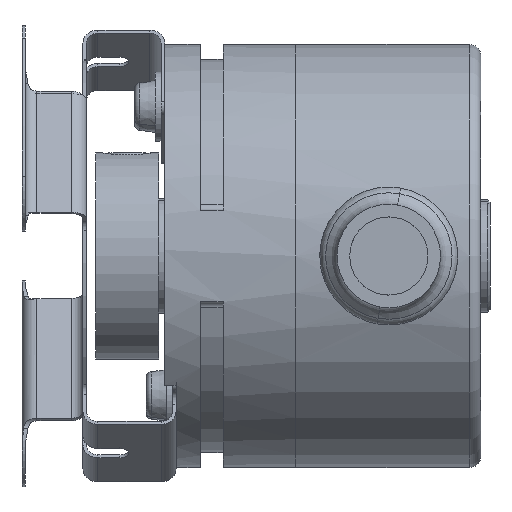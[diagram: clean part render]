
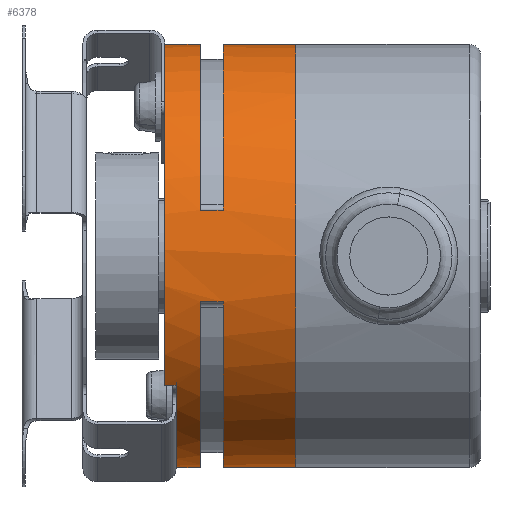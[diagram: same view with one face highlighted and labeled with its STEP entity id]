
A CAD part, front view. The second image highlights one B-rep face of the part: STEP entity #6378.
In plain terms, the highlighted cylindrical face has radius 18.4 mm (diameter 36.8 mm), a partial arc.
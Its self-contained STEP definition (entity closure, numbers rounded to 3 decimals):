
#4938 = VERTEX_POINT ( 'NONE', #11564 ) ;
#4947 = VERTEX_POINT ( 'NONE', #11547 ) ;
#5017 = VERTEX_POINT ( 'NONE', #16097 ) ;
#5018 = VERTEX_POINT ( 'NONE', #16096 ) ;
#5020 = EDGE_CURVE ( 'NONE', #5018, #4938, #16095, .T. ) ;
#5022 = VERTEX_POINT ( 'NONE', #16086 ) ;
#5024 = EDGE_CURVE ( 'NONE', #5017, #5022, #16084, .T. ) ;
#5046 = EDGE_CURVE ( 'NONE', #4947, #5047, #16180, .T. ) ;
#5047 = VERTEX_POINT ( 'NONE', #16176 ) ;
#5050 = VERTEX_POINT ( 'NONE', #16170 ) ;
#5052 = EDGE_CURVE ( 'NONE', #5053, #5050, #16169, .T. ) ;
#5053 = VERTEX_POINT ( 'NONE', #16165 ) ;
#6378 = ADVANCED_FACE ( 'NONE', ( #20187 ), #20168, .T. ) ;
#6379 = ORIENTED_EDGE ( 'NONE', *, *, #5020, .F. ) ;
#6380 = ORIENTED_EDGE ( 'NONE', *, *, #6414, .T. ) ;
#6381 = ORIENTED_EDGE ( 'NONE', *, *, #5024, .T. ) ;
#6403 = ORIENTED_EDGE ( 'NONE', *, *, #6404, .F. ) ;
#6404 = EDGE_CURVE ( 'NONE', #5053, #6456, #20238, .T. ) ;
#6405 = ORIENTED_EDGE ( 'NONE', *, *, #5052, .T. ) ;
#6414 = EDGE_CURVE ( 'NONE', #5018, #5017, #20284, .T. ) ;
#6416 = EDGE_LOOP ( 'NONE', ( #6379, #6380, #6381, #6451, #6454, #6403, #6405, #6479, #6434, #6484, #6423, #6503, #6425, #6471, #6441, #6435 ) ) ;
#6423 = ORIENTED_EDGE ( 'NONE', *, *, #6502, .T. ) ;
#6424 = VERTEX_POINT ( 'NONE', #20263 ) ;
#6425 = ORIENTED_EDGE ( 'NONE', *, *, #5046, .F. ) ;
#6434 = ORIENTED_EDGE ( 'NONE', *, *, #6492, .F. ) ;
#6435 = ORIENTED_EDGE ( 'NONE', *, *, #6436, .T. ) ;
#6436 = EDGE_CURVE ( 'NONE', #6424, #4938, #20322, .T. ) ;
#6441 = ORIENTED_EDGE ( 'NONE', *, *, #6442, .F. ) ;
#6442 = EDGE_CURVE ( 'NONE', #6424, #6478, #20311, .T. ) ;
#6443 = VERTEX_POINT ( 'NONE', #20307 ) ;
#6444 = VERTEX_POINT ( 'NONE', #20306 ) ;
#6451 = ORIENTED_EDGE ( 'NONE', *, *, #6452, .T. ) ;
#6452 = EDGE_CURVE ( 'NONE', #5022, #6453, #20347, .T. ) ;
#6453 = VERTEX_POINT ( 'NONE', #20342 ) ;
#6454 = ORIENTED_EDGE ( 'NONE', *, *, #6455, .T. ) ;
#6455 = EDGE_CURVE ( 'NONE', #6453, #6456, #20341, .T. ) ;
#6456 = VERTEX_POINT ( 'NONE', #20337 ) ;
#6471 = ORIENTED_EDGE ( 'NONE', *, *, #6472, .F. ) ;
#6472 = EDGE_CURVE ( 'NONE', #6478, #4947, #20385, .T. ) ;
#6473 = VERTEX_POINT ( 'NONE', #20435 ) ;
#6478 = VERTEX_POINT ( 'NONE', #20429 ) ;
#6479 = ORIENTED_EDGE ( 'NONE', *, *, #6485, .F. ) ;
#6484 = ORIENTED_EDGE ( 'NONE', *, *, #6497, .F. ) ;
#6485 = EDGE_CURVE ( 'NONE', #6444, #5050, #20423, .T. ) ;
#6490 = VERTEX_POINT ( 'NONE', #20405 ) ;
#6492 = EDGE_CURVE ( 'NONE', #6473, #6444, #20472, .T. ) ;
#6497 = EDGE_CURVE ( 'NONE', #6490, #6473, #20463, .T. ) ;
#6502 = EDGE_CURVE ( 'NONE', #6490, #6443, #20453, .T. ) ;
#6503 = ORIENTED_EDGE ( 'NONE', *, *, #6504, .F. ) ;
#6504 = EDGE_CURVE ( 'NONE', #5047, #6443, #20448, .T. ) ;
#11547 = CARTESIAN_POINT ( 'NONE',  ( 84.26, -17.498, -18.4 ) ) ;
#11564 = CARTESIAN_POINT ( 'NONE',  ( 86.26, -17.498, -18.4 ) ) ;
#16081 = DIRECTION ( 'NONE',  ( -1., 0., 0. ) ) ;
#16082 = VECTOR ( 'NONE', #16081, 1000. ) ;
#16083 = CARTESIAN_POINT ( 'NONE',  ( 76.76, -17.498, 18.4 ) ) ;
#16084 = LINE ( 'NONE', #16083, #16082 ) ;
#16086 = CARTESIAN_POINT ( 'NONE',  ( 86.26, -17.498, 18.4 ) ) ;
#16092 = DIRECTION ( 'NONE',  ( -1., 0., 0. ) ) ;
#16093 = VECTOR ( 'NONE', #16092, 1000. ) ;
#16094 = CARTESIAN_POINT ( 'NONE',  ( 76.76, -17.498, -18.4 ) ) ;
#16095 = LINE ( 'NONE', #16094, #16093 ) ;
#16096 = CARTESIAN_POINT ( 'NONE',  ( 92.56, -17.498, -18.4 ) ) ;
#16097 = CARTESIAN_POINT ( 'NONE',  ( 92.56, -17.498, 18.4 ) ) ;
#16165 = CARTESIAN_POINT ( 'NONE',  ( 84.26, -17.498, 18.4 ) ) ;
#16166 = DIRECTION ( 'NONE',  ( -1., 0., 0. ) ) ;
#16167 = VECTOR ( 'NONE', #16166, 1000. ) ;
#16168 = CARTESIAN_POINT ( 'NONE',  ( 76.76, -17.498, 18.4 ) ) ;
#16169 = LINE ( 'NONE', #16168, #16167 ) ;
#16170 = CARTESIAN_POINT ( 'NONE',  ( 81.16, -17.498, 18.4 ) ) ;
#16176 = CARTESIAN_POINT ( 'NONE',  ( 81.16, -17.498, -18.4 ) ) ;
#16177 = DIRECTION ( 'NONE',  ( -1., 0., 0. ) ) ;
#16178 = VECTOR ( 'NONE', #16177, 1000. ) ;
#16179 = CARTESIAN_POINT ( 'NONE',  ( 76.76, -17.498, -18.4 ) ) ;
#16180 = LINE ( 'NONE', #16179, #16178 ) ;
#20127 = CARTESIAN_POINT ( 'NONE',  ( 84.26, -17.498, 0. ) ) ;
#20165 = DIRECTION ( 'NONE',  ( 0., 0., 1. ) ) ;
#20166 = DIRECTION ( 'NONE',  ( -1., 0., 0. ) ) ;
#20167 = AXIS2_PLACEMENT_3D ( 'NONE', #20170, #20166, #20165 ) ;
#20168 = CYLINDRICAL_SURFACE ( 'NONE', #20167, 18.4 ) ;
#20170 = CARTESIAN_POINT ( 'NONE',  ( 76.76, -17.498, 0. ) ) ;
#20187 = FACE_OUTER_BOUND ( 'NONE', #6416, .T. ) ;
#20234 = DIRECTION ( 'NONE',  ( 0., 0., -1. ) ) ;
#20235 = DIRECTION ( 'NONE',  ( 1., 0., 0. ) ) ;
#20236 = CARTESIAN_POINT ( 'NONE',  ( 84.26, -17.498, 0. ) ) ;
#20237 = AXIS2_PLACEMENT_3D ( 'NONE', #20236, #20235, #20234 ) ;
#20238 = CIRCLE ( 'NONE', #20237, 18.4 ) ;
#20263 = CARTESIAN_POINT ( 'NONE',  ( 86.26, -35.458, -4. ) ) ;
#20279 = DIRECTION ( 'NONE',  ( 0., 0., 1. ) ) ;
#20281 = DIRECTION ( 'NONE',  ( -1., 0., 0. ) ) ;
#20282 = CARTESIAN_POINT ( 'NONE',  ( 92.56, -17.498, 0. ) ) ;
#20283 = AXIS2_PLACEMENT_3D ( 'NONE', #20282, #20281, #20279 ) ;
#20284 = CIRCLE ( 'NONE', #20283, 18.4 ) ;
#20306 = CARTESIAN_POINT ( 'NONE',  ( 81.16, -32.069, -11.237 ) ) ;
#20307 = CARTESIAN_POINT ( 'NONE',  ( 81.16, -19.944, -18.237 ) ) ;
#20308 = DIRECTION ( 'NONE',  ( -1., 0., 0. ) ) ;
#20309 = VECTOR ( 'NONE', #20308, 1000. ) ;
#20310 = CARTESIAN_POINT ( 'NONE',  ( 86.26, -35.458, -4. ) ) ;
#20311 = LINE ( 'NONE', #20310, #20309 ) ;
#20317 = DIRECTION ( 'NONE',  ( 0., 0., -1. ) ) ;
#20318 = DIRECTION ( 'NONE',  ( 1., 0., 0. ) ) ;
#20319 = CARTESIAN_POINT ( 'NONE',  ( 86.26, -17.498, 0. ) ) ;
#20321 = AXIS2_PLACEMENT_3D ( 'NONE', #20319, #20318, #20317 ) ;
#20322 = CIRCLE ( 'NONE', #20321, 18.4 ) ;
#20337 = CARTESIAN_POINT ( 'NONE',  ( 84.26, -35.458, 4. ) ) ;
#20338 = DIRECTION ( 'NONE',  ( -1., 0., 0. ) ) ;
#20339 = VECTOR ( 'NONE', #20338, 1000. ) ;
#20340 = CARTESIAN_POINT ( 'NONE',  ( 86.26, -35.458, 4. ) ) ;
#20341 = LINE ( 'NONE', #20340, #20339 ) ;
#20342 = CARTESIAN_POINT ( 'NONE',  ( 86.26, -35.458, 4. ) ) ;
#20343 = DIRECTION ( 'NONE',  ( 0., 0., -1. ) ) ;
#20344 = DIRECTION ( 'NONE',  ( 1., 0., 0. ) ) ;
#20345 = CARTESIAN_POINT ( 'NONE',  ( 86.26, -17.498, 0. ) ) ;
#20346 = AXIS2_PLACEMENT_3D ( 'NONE', #20345, #20344, #20343 ) ;
#20347 = CIRCLE ( 'NONE', #20346, 18.4 ) ;
#20384 = AXIS2_PLACEMENT_3D ( 'NONE', #20127, #20437, #20436 ) ;
#20385 = CIRCLE ( 'NONE', #20384, 18.4 ) ;
#20405 = CARTESIAN_POINT ( 'NONE',  ( 82.16, -19.944, -18.237 ) ) ;
#20419 = DIRECTION ( 'NONE',  ( 0., 0., 1. ) ) ;
#20420 = DIRECTION ( 'NONE',  ( -1., 0., 0. ) ) ;
#20421 = CARTESIAN_POINT ( 'NONE',  ( 81.16, -17.498, 0. ) ) ;
#20422 = AXIS2_PLACEMENT_3D ( 'NONE', #20421, #20420, #20419 ) ;
#20423 = CIRCLE ( 'NONE', #20422, 18.4 ) ;
#20429 = CARTESIAN_POINT ( 'NONE',  ( 84.26, -35.458, -4. ) ) ;
#20435 = CARTESIAN_POINT ( 'NONE',  ( 82.16, -32.069, -11.237 ) ) ;
#20436 = DIRECTION ( 'NONE',  ( 0., 0., -1. ) ) ;
#20437 = DIRECTION ( 'NONE',  ( 1., 0., 0. ) ) ;
#20444 = DIRECTION ( 'NONE',  ( 0., 0., 1. ) ) ;
#20445 = DIRECTION ( 'NONE',  ( -1., 0., 0. ) ) ;
#20446 = CARTESIAN_POINT ( 'NONE',  ( 81.16, -17.498, 0. ) ) ;
#20447 = AXIS2_PLACEMENT_3D ( 'NONE', #20446, #20445, #20444 ) ;
#20448 = CIRCLE ( 'NONE', #20447, 18.4 ) ;
#20450 = DIRECTION ( 'NONE',  ( -1., 0., 0. ) ) ;
#20451 = VECTOR ( 'NONE', #20450, 1000. ) ;
#20452 = CARTESIAN_POINT ( 'NONE',  ( 82.16, -19.944, -18.237 ) ) ;
#20453 = LINE ( 'NONE', #20452, #20451 ) ;
#20459 = DIRECTION ( 'NONE',  ( 0., 0., 1. ) ) ;
#20460 = DIRECTION ( 'NONE',  ( -1., 0., 0. ) ) ;
#20461 = CARTESIAN_POINT ( 'NONE',  ( 82.16, -17.498, 0. ) ) ;
#20462 = AXIS2_PLACEMENT_3D ( 'NONE', #20461, #20460, #20459 ) ;
#20463 = CIRCLE ( 'NONE', #20462, 18.4 ) ;
#20469 = DIRECTION ( 'NONE',  ( -1., 0., 0. ) ) ;
#20470 = VECTOR ( 'NONE', #20469, 1000. ) ;
#20471 = CARTESIAN_POINT ( 'NONE',  ( 82.16, -32.069, -11.237 ) ) ;
#20472 = LINE ( 'NONE', #20471, #20470 ) ;
